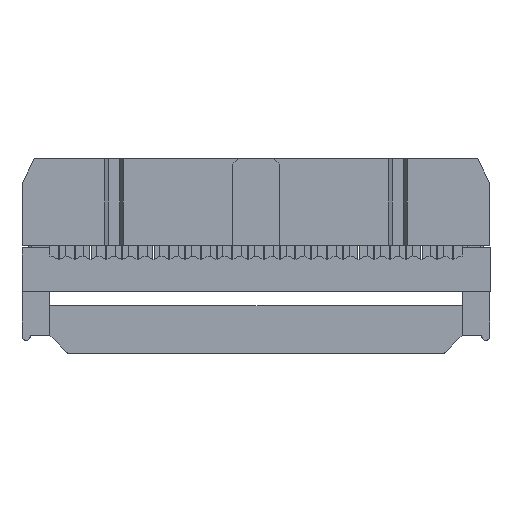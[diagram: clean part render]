
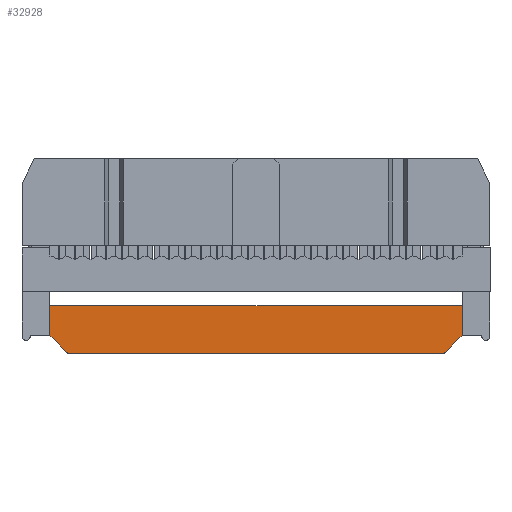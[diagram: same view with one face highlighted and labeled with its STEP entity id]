
A CAD part, front view. The second image highlights one B-rep face of the part: STEP entity #32928.
In plain terms, the highlighted planar face has unit normal (0, -1, 0).
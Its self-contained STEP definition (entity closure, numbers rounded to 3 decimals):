
#30066 = EDGE_CURVE('',#30067,#30069,#30071,.T.);
#30067 = VERTEX_POINT('',#30068);
#30068 = CARTESIAN_POINT('',(-15.235,-1.685,-1.365));
#30069 = VERTEX_POINT('',#30070);
#30070 = CARTESIAN_POINT('',(-15.03,-1.685,-1.45));
#30071 = SURFACE_CURVE('',#30072,(#30077,#30089),.PCURVE_S1.);
#30072 = CIRCLE('',#30073,0.29);
#30073 = AXIS2_PLACEMENT_3D('',#30074,#30075,#30076);
#30074 = CARTESIAN_POINT('',(-15.03,-1.685,-1.16));
#30075 = DIRECTION('',(0.,-1.,0.));
#30076 = DIRECTION('',(0.,0.,-1.));
#30077 = PCURVE('',#30078,#30083);
#30078 = CYLINDRICAL_SURFACE('',#30079,0.29);
#30079 = AXIS2_PLACEMENT_3D('',#30080,#30081,#30082);
#30080 = CARTESIAN_POINT('',(-15.03,-1.685,-1.16));
#30081 = DIRECTION('',(-0.,-1.,-0.));
#30082 = DIRECTION('',(0.,0.,1.));
#30083 = DEFINITIONAL_REPRESENTATION('',(#30084),#30088);
#30084 = LINE('',#30085,#30086);
#30085 = CARTESIAN_POINT('',(-3.142,0.));
#30086 = VECTOR('',#30087,1.);
#30087 = DIRECTION('',(1.,0.));
#30088 = ( GEOMETRIC_REPRESENTATION_CONTEXT(2) 
PARAMETRIC_REPRESENTATION_CONTEXT() REPRESENTATION_CONTEXT('2D SPACE',''
  ) );
#30089 = PCURVE('',#30090,#30095);
#30090 = PLANE('',#30091);
#30091 = AXIS2_PLACEMENT_3D('',#30092,#30093,#30094);
#30092 = CARTESIAN_POINT('',(-16.6,-1.685,0.));
#30093 = DIRECTION('',(0.,-1.,0.));
#30094 = DIRECTION('',(0.,0.,-1.));
#30095 = DEFINITIONAL_REPRESENTATION('',(#30096),#30100);
#30096 = CIRCLE('',#30097,0.29);
#30097 = AXIS2_PLACEMENT_2D('',#30098,#30099);
#30098 = CARTESIAN_POINT('',(1.16,1.57));
#30099 = DIRECTION('',(1.,0.));
#30100 = ( GEOMETRIC_REPRESENTATION_CONTEXT(2) 
PARAMETRIC_REPRESENTATION_CONTEXT() REPRESENTATION_CONTEXT('2D SPACE',''
  ) );
#30118 = PLANE('',#30119);
#30119 = AXIS2_PLACEMENT_3D('',#30120,#30121,#30122);
#30120 = CARTESIAN_POINT('',(-16.6,-1.685,0.));
#30121 = DIRECTION('',(-0.707,0.,-0.707));
#30122 = DIRECTION('',(-0.707,0.,0.707));
#30173 = PLANE('',#30174);
#30174 = AXIS2_PLACEMENT_3D('',#30175,#30176,#30177);
#30175 = CARTESIAN_POINT('',(-15.15,-1.685,-1.45));
#30176 = DIRECTION('',(0.,0.,-1.));
#30177 = DIRECTION('',(-1.,0.,0.));
#30717 = PLANE('',#30718);
#30718 = AXIS2_PLACEMENT_3D('',#30719,#30720,#30721);
#30719 = CARTESIAN_POINT('',(16.6,-3.,0.));
#30720 = DIRECTION('',(1.,0.,0.));
#30721 = DIRECTION('',(0.,0.,-1.));
#31101 = VERTEX_POINT('',#31102);
#31102 = CARTESIAN_POINT('',(16.6,-1.685,2.4));
#31116 = PLANE('',#31117);
#31117 = AXIS2_PLACEMENT_3D('',#31118,#31119,#31120);
#31118 = CARTESIAN_POINT('',(-16.6,-1.685,2.4));
#31119 = DIRECTION('',(0.,0.,-1.));
#31120 = DIRECTION('',(-1.,0.,0.));
#31128 = EDGE_CURVE('',#31129,#31101,#31131,.T.);
#31129 = VERTEX_POINT('',#31130);
#31130 = CARTESIAN_POINT('',(16.6,-1.685,0.));
#31131 = SURFACE_CURVE('',#31132,(#31136,#31143),.PCURVE_S1.);
#31132 = LINE('',#31133,#31134);
#31133 = CARTESIAN_POINT('',(16.6,-1.685,2.4));
#31134 = VECTOR('',#31135,1.);
#31135 = DIRECTION('',(0.,0.,1.));
#31136 = PCURVE('',#30717,#31137);
#31137 = DEFINITIONAL_REPRESENTATION('',(#31138),#31142);
#31138 = LINE('',#31139,#31140);
#31139 = CARTESIAN_POINT('',(-2.4,1.315));
#31140 = VECTOR('',#31141,1.);
#31141 = DIRECTION('',(-1.,0.));
#31142 = ( GEOMETRIC_REPRESENTATION_CONTEXT(2) 
PARAMETRIC_REPRESENTATION_CONTEXT() REPRESENTATION_CONTEXT('2D SPACE',''
  ) );
#31143 = PCURVE('',#30090,#31144);
#31144 = DEFINITIONAL_REPRESENTATION('',(#31145),#31149);
#31145 = LINE('',#31146,#31147);
#31146 = CARTESIAN_POINT('',(-2.4,33.2));
#31147 = VECTOR('',#31148,1.);
#31148 = DIRECTION('',(-1.,0.));
#31149 = ( GEOMETRIC_REPRESENTATION_CONTEXT(2) 
PARAMETRIC_REPRESENTATION_CONTEXT() REPRESENTATION_CONTEXT('2D SPACE',''
  ) );
#31576 = PLANE('',#31577);
#31577 = AXIS2_PLACEMENT_3D('',#31578,#31579,#31580);
#31578 = CARTESIAN_POINT('',(15.15,-1.685,-1.45));
#31579 = DIRECTION('',(0.707,0.,-0.707));
#31580 = DIRECTION('',(-0.707,0.,-0.707));
#31667 = PLANE('',#31668);
#31668 = AXIS2_PLACEMENT_3D('',#31669,#31670,#31671);
#31669 = CARTESIAN_POINT('',(-16.6,-3.,0.));
#31670 = DIRECTION('',(-1.,0.,0.));
#31671 = DIRECTION('',(0.,0.,1.));
#31680 = VERTEX_POINT('',#31681);
#31681 = CARTESIAN_POINT('',(-16.6,-1.685,0.));
#31844 = VERTEX_POINT('',#31845);
#31845 = CARTESIAN_POINT('',(-16.6,-1.685,2.4));
#31936 = EDGE_CURVE('',#31844,#31680,#31937,.T.);
#31937 = SURFACE_CURVE('',#31938,(#31942,#31949),.PCURVE_S1.);
#31938 = LINE('',#31939,#31940);
#31939 = CARTESIAN_POINT('',(-16.6,-1.685,0.));
#31940 = VECTOR('',#31941,1.);
#31941 = DIRECTION('',(0.,0.,-1.));
#31942 = PCURVE('',#31667,#31943);
#31943 = DEFINITIONAL_REPRESENTATION('',(#31944),#31948);
#31944 = LINE('',#31945,#31946);
#31945 = CARTESIAN_POINT('',(0.,1.315));
#31946 = VECTOR('',#31947,1.);
#31947 = DIRECTION('',(-1.,0.));
#31948 = ( GEOMETRIC_REPRESENTATION_CONTEXT(2) 
PARAMETRIC_REPRESENTATION_CONTEXT() REPRESENTATION_CONTEXT('2D SPACE',''
  ) );
#31949 = PCURVE('',#30090,#31950);
#31950 = DEFINITIONAL_REPRESENTATION('',(#31951),#31955);
#31951 = LINE('',#31952,#31953);
#31952 = CARTESIAN_POINT('',(0.,0.));
#31953 = VECTOR('',#31954,1.);
#31954 = DIRECTION('',(1.,0.));
#31955 = ( GEOMETRIC_REPRESENTATION_CONTEXT(2) 
PARAMETRIC_REPRESENTATION_CONTEXT() REPRESENTATION_CONTEXT('2D SPACE',''
  ) );
#32066 = CYLINDRICAL_SURFACE('',#32067,0.29);
#32067 = AXIS2_PLACEMENT_3D('',#32068,#32069,#32070);
#32068 = CARTESIAN_POINT('',(15.03,-1.685,-1.16));
#32069 = DIRECTION('',(-0.,-1.,-0.));
#32070 = DIRECTION('',(0.,0.,1.));
#32083 = EDGE_CURVE('',#30067,#31680,#32084,.T.);
#32084 = SURFACE_CURVE('',#32085,(#32089,#32096),.PCURVE_S1.);
#32085 = LINE('',#32086,#32087);
#32086 = CARTESIAN_POINT('',(-16.6,-1.685,0.));
#32087 = VECTOR('',#32088,1.);
#32088 = DIRECTION('',(-0.707,0.,0.707));
#32089 = PCURVE('',#30118,#32090);
#32090 = DEFINITIONAL_REPRESENTATION('',(#32091),#32095);
#32091 = LINE('',#32092,#32093);
#32092 = CARTESIAN_POINT('',(0.,0.));
#32093 = VECTOR('',#32094,1.);
#32094 = DIRECTION('',(1.,0.));
#32095 = ( GEOMETRIC_REPRESENTATION_CONTEXT(2) 
PARAMETRIC_REPRESENTATION_CONTEXT() REPRESENTATION_CONTEXT('2D SPACE',''
  ) );
#32096 = PCURVE('',#30090,#32097);
#32097 = DEFINITIONAL_REPRESENTATION('',(#32098),#32102);
#32098 = LINE('',#32099,#32100);
#32099 = CARTESIAN_POINT('',(0.,0.));
#32100 = VECTOR('',#32101,1.);
#32101 = DIRECTION('',(-0.707,-0.707));
#32102 = ( GEOMETRIC_REPRESENTATION_CONTEXT(2) 
PARAMETRIC_REPRESENTATION_CONTEXT() REPRESENTATION_CONTEXT('2D SPACE',''
  ) );
#32928 = ADVANCED_FACE('',(#32929),#30090,.T.);
#32929 = FACE_BOUND('',#32930,.T.);
#32930 = EDGE_LOOP('',(#32931,#32932,#32933,#32956,#32980,#33001,#33002,
    #33023));
#32931 = ORIENTED_EDGE('',*,*,#32083,.F.);
#32932 = ORIENTED_EDGE('',*,*,#30066,.T.);
#32933 = ORIENTED_EDGE('',*,*,#32934,.F.);
#32934 = EDGE_CURVE('',#32935,#30069,#32937,.T.);
#32935 = VERTEX_POINT('',#32936);
#32936 = CARTESIAN_POINT('',(15.03,-1.685,-1.45));
#32937 = SURFACE_CURVE('',#32938,(#32942,#32949),.PCURVE_S1.);
#32938 = LINE('',#32939,#32940);
#32939 = CARTESIAN_POINT('',(-15.15,-1.685,-1.45));
#32940 = VECTOR('',#32941,1.);
#32941 = DIRECTION('',(-1.,0.,0.));
#32942 = PCURVE('',#30090,#32943);
#32943 = DEFINITIONAL_REPRESENTATION('',(#32944),#32948);
#32944 = LINE('',#32945,#32946);
#32945 = CARTESIAN_POINT('',(1.45,1.45));
#32946 = VECTOR('',#32947,1.);
#32947 = DIRECTION('',(0.,-1.));
#32948 = ( GEOMETRIC_REPRESENTATION_CONTEXT(2) 
PARAMETRIC_REPRESENTATION_CONTEXT() REPRESENTATION_CONTEXT('2D SPACE',''
  ) );
#32949 = PCURVE('',#30173,#32950);
#32950 = DEFINITIONAL_REPRESENTATION('',(#32951),#32955);
#32951 = LINE('',#32952,#32953);
#32952 = CARTESIAN_POINT('',(0.,0.));
#32953 = VECTOR('',#32954,1.);
#32954 = DIRECTION('',(1.,0.));
#32955 = ( GEOMETRIC_REPRESENTATION_CONTEXT(2) 
PARAMETRIC_REPRESENTATION_CONTEXT() REPRESENTATION_CONTEXT('2D SPACE',''
  ) );
#32956 = ORIENTED_EDGE('',*,*,#32957,.T.);
#32957 = EDGE_CURVE('',#32935,#32958,#32960,.T.);
#32958 = VERTEX_POINT('',#32959);
#32959 = CARTESIAN_POINT('',(15.235,-1.685,-1.365));
#32960 = SURFACE_CURVE('',#32961,(#32966,#32973),.PCURVE_S1.);
#32961 = CIRCLE('',#32962,0.29);
#32962 = AXIS2_PLACEMENT_3D('',#32963,#32964,#32965);
#32963 = CARTESIAN_POINT('',(15.03,-1.685,-1.16));
#32964 = DIRECTION('',(0.,-1.,0.));
#32965 = DIRECTION('',(0.,0.,-1.));
#32966 = PCURVE('',#30090,#32967);
#32967 = DEFINITIONAL_REPRESENTATION('',(#32968),#32972);
#32968 = CIRCLE('',#32969,0.29);
#32969 = AXIS2_PLACEMENT_2D('',#32970,#32971);
#32970 = CARTESIAN_POINT('',(1.16,31.63));
#32971 = DIRECTION('',(1.,0.));
#32972 = ( GEOMETRIC_REPRESENTATION_CONTEXT(2) 
PARAMETRIC_REPRESENTATION_CONTEXT() REPRESENTATION_CONTEXT('2D SPACE',''
  ) );
#32973 = PCURVE('',#32066,#32974);
#32974 = DEFINITIONAL_REPRESENTATION('',(#32975),#32979);
#32975 = LINE('',#32976,#32977);
#32976 = CARTESIAN_POINT('',(3.142,0.));
#32977 = VECTOR('',#32978,1.);
#32978 = DIRECTION('',(1.,0.));
#32979 = ( GEOMETRIC_REPRESENTATION_CONTEXT(2) 
PARAMETRIC_REPRESENTATION_CONTEXT() REPRESENTATION_CONTEXT('2D SPACE',''
  ) );
#32980 = ORIENTED_EDGE('',*,*,#32981,.F.);
#32981 = EDGE_CURVE('',#31129,#32958,#32982,.T.);
#32982 = SURFACE_CURVE('',#32983,(#32987,#32994),.PCURVE_S1.);
#32983 = LINE('',#32984,#32985);
#32984 = CARTESIAN_POINT('',(15.15,-1.685,-1.45));
#32985 = VECTOR('',#32986,1.);
#32986 = DIRECTION('',(-0.707,0.,-0.707));
#32987 = PCURVE('',#30090,#32988);
#32988 = DEFINITIONAL_REPRESENTATION('',(#32989),#32993);
#32989 = LINE('',#32990,#32991);
#32990 = CARTESIAN_POINT('',(1.45,31.75));
#32991 = VECTOR('',#32992,1.);
#32992 = DIRECTION('',(0.707,-0.707));
#32993 = ( GEOMETRIC_REPRESENTATION_CONTEXT(2) 
PARAMETRIC_REPRESENTATION_CONTEXT() REPRESENTATION_CONTEXT('2D SPACE',''
  ) );
#32994 = PCURVE('',#31576,#32995);
#32995 = DEFINITIONAL_REPRESENTATION('',(#32996),#33000);
#32996 = LINE('',#32997,#32998);
#32997 = CARTESIAN_POINT('',(0.,0.));
#32998 = VECTOR('',#32999,1.);
#32999 = DIRECTION('',(1.,0.));
#33000 = ( GEOMETRIC_REPRESENTATION_CONTEXT(2) 
PARAMETRIC_REPRESENTATION_CONTEXT() REPRESENTATION_CONTEXT('2D SPACE',''
  ) );
#33001 = ORIENTED_EDGE('',*,*,#31128,.T.);
#33002 = ORIENTED_EDGE('',*,*,#33003,.T.);
#33003 = EDGE_CURVE('',#31101,#31844,#33004,.T.);
#33004 = SURFACE_CURVE('',#33005,(#33009,#33016),.PCURVE_S1.);
#33005 = LINE('',#33006,#33007);
#33006 = CARTESIAN_POINT('',(-16.6,-1.685,2.4));
#33007 = VECTOR('',#33008,1.);
#33008 = DIRECTION('',(-1.,0.,0.));
#33009 = PCURVE('',#30090,#33010);
#33010 = DEFINITIONAL_REPRESENTATION('',(#33011),#33015);
#33011 = LINE('',#33012,#33013);
#33012 = CARTESIAN_POINT('',(-2.4,0.));
#33013 = VECTOR('',#33014,1.);
#33014 = DIRECTION('',(0.,-1.));
#33015 = ( GEOMETRIC_REPRESENTATION_CONTEXT(2) 
PARAMETRIC_REPRESENTATION_CONTEXT() REPRESENTATION_CONTEXT('2D SPACE',''
  ) );
#33016 = PCURVE('',#31116,#33017);
#33017 = DEFINITIONAL_REPRESENTATION('',(#33018),#33022);
#33018 = LINE('',#33019,#33020);
#33019 = CARTESIAN_POINT('',(0.,0.));
#33020 = VECTOR('',#33021,1.);
#33021 = DIRECTION('',(1.,0.));
#33022 = ( GEOMETRIC_REPRESENTATION_CONTEXT(2) 
PARAMETRIC_REPRESENTATION_CONTEXT() REPRESENTATION_CONTEXT('2D SPACE',''
  ) );
#33023 = ORIENTED_EDGE('',*,*,#31936,.T.);
